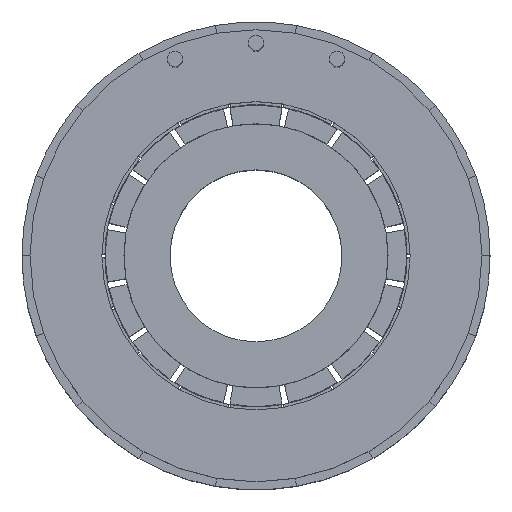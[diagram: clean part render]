
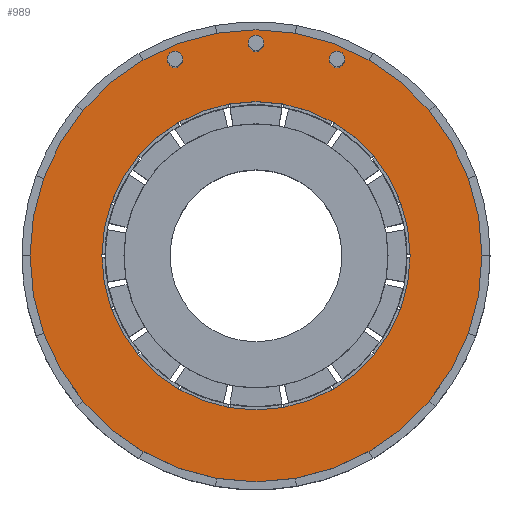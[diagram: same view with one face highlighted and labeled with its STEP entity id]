
A CAD part, top view. The second image highlights one B-rep face of the part: STEP entity #989.
In plain terms, the highlighted planar face has unit normal (0, 0, 1).
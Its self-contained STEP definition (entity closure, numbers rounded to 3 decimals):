
#19 = CARTESIAN_POINT ( 'NONE',  ( -11.948, 31.874, 40.9 ) ) ;
#24 = FACE_BOUND ( 'NONE', #2512, .T. ) ;
#64 = CARTESIAN_POINT ( 'NONE',  ( 13.203, 31.874, 40.9 ) ) ;
#83 = FACE_BOUND ( 'NONE', #1344, .T. ) ;
#109 = VERTEX_POINT ( 'NONE', #1306 ) ;
#110 = CARTESIAN_POINT ( 'NONE',  ( 0., 0., 40.9 ) ) ;
#163 = EDGE_LOOP ( 'NONE', ( #1943, #1238 ) ) ;
#168 = ORIENTED_EDGE ( 'NONE', *, *, #913, .F. ) ;
#184 = DIRECTION ( 'NONE',  ( 0., 0., 1. ) ) ;
#209 = VERTEX_POINT ( 'NONE', #2254 ) ;
#218 = CIRCLE ( 'NONE', #857, 36.8 ) ;
#263 = CIRCLE ( 'NONE', #477, 1.255 ) ;
#269 = DIRECTION ( 'NONE',  ( 0., 0., 1. ) ) ;
#279 = DIRECTION ( 'NONE',  ( 1., 0., 0. ) ) ;
#331 = CARTESIAN_POINT ( 'NONE',  ( -13.203, 31.874, 40.9 ) ) ;
#421 = AXIS2_PLACEMENT_3D ( 'NONE', #917, #1189, #3169 ) ;
#448 = EDGE_CURVE ( 'NONE', #1109, #1535, #1636, .T. ) ;
#477 = AXIS2_PLACEMENT_3D ( 'NONE', #64, #792, #1799 ) ;
#494 = EDGE_LOOP ( 'NONE', ( #2125, #2614 ) ) ;
#505 = EDGE_CURVE ( 'NONE', #3063, #1773, #2687, .T. ) ;
#567 = CARTESIAN_POINT ( 'NONE',  ( 1.255, 34.5, 40.9 ) ) ;
#627 = CIRCLE ( 'NONE', #2267, 36.8 ) ;
#640 = EDGE_CURVE ( 'NONE', #2920, #209, #1110, .T. ) ;
#643 = DIRECTION ( 'NONE',  ( 1., 0., 0. ) ) ;
#715 = CARTESIAN_POINT ( 'NONE',  ( 0., 0., 40.9 ) ) ;
#792 = DIRECTION ( 'NONE',  ( 0., 0., 1. ) ) ;
#842 = DIRECTION ( 'NONE',  ( 1., 0., 0. ) ) ;
#852 = CIRCLE ( 'NONE', #1260, 1.255 ) ;
#857 = AXIS2_PLACEMENT_3D ( 'NONE', #2921, #1380, #2652 ) ;
#858 = CIRCLE ( 'NONE', #2364, 1.255 ) ;
#866 = FACE_BOUND ( 'NONE', #1953, .T. ) ;
#879 = DIRECTION ( 'NONE',  ( 1., 0., 0. ) ) ;
#893 = CARTESIAN_POINT ( 'NONE',  ( 11.948, 31.874, 40.9 ) ) ;
#913 = EDGE_CURVE ( 'NONE', #1773, #3063, #858, .T. ) ;
#917 = CARTESIAN_POINT ( 'NONE',  ( 0., 0., 40.9 ) ) ;
#989 = ADVANCED_FACE ( 'NONE', ( #24, #2040, #83, #2097, #866 ), #1378, .T. ) ;
#1059 = AXIS2_PLACEMENT_3D ( 'NONE', #2172, #2219, #2711 ) ;
#1102 = ORIENTED_EDGE ( 'NONE', *, *, #505, .F. ) ;
#1109 = VERTEX_POINT ( 'NONE', #1870 ) ;
#1110 = CIRCLE ( 'NONE', #1747, 25.1 ) ;
#1119 = ORIENTED_EDGE ( 'NONE', *, *, #1753, .F. ) ;
#1120 = DIRECTION ( 'NONE',  ( 0., 0., 1. ) ) ;
#1145 = ORIENTED_EDGE ( 'NONE', *, *, #448, .F. ) ;
#1189 = DIRECTION ( 'NONE',  ( 0., 0., 1. ) ) ;
#1238 = ORIENTED_EDGE ( 'NONE', *, *, #1713, .T. ) ;
#1260 = AXIS2_PLACEMENT_3D ( 'NONE', #2801, #1540, #279 ) ;
#1306 = CARTESIAN_POINT ( 'NONE',  ( -36.8, 0., 40.9 ) ) ;
#1344 = EDGE_LOOP ( 'NONE', ( #1145, #1119 ) ) ;
#1369 = CIRCLE ( 'NONE', #2782, 25.1 ) ;
#1378 = PLANE ( 'NONE',  #421 ) ;
#1380 = DIRECTION ( 'NONE',  ( 0., 0., 1. ) ) ;
#1413 = CARTESIAN_POINT ( 'NONE',  ( -25.1, 0., 40.9 ) ) ;
#1444 = CARTESIAN_POINT ( 'NONE',  ( 14.458, 31.874, 40.9 ) ) ;
#1472 = DIRECTION ( 'NONE',  ( 0., 0., 1. ) ) ;
#1524 = DIRECTION ( 'NONE',  ( 1., 0., 0. ) ) ;
#1535 = VERTEX_POINT ( 'NONE', #567 ) ;
#1540 = DIRECTION ( 'NONE',  ( 0., 0., 1. ) ) ;
#1578 = CIRCLE ( 'NONE', #2576, 1.255 ) ;
#1636 = CIRCLE ( 'NONE', #3208, 1.255 ) ;
#1713 = EDGE_CURVE ( 'NONE', #3080, #109, #627, .T. ) ;
#1747 = AXIS2_PLACEMENT_3D ( 'NONE', #715, #1472, #2440 ) ;
#1753 = EDGE_CURVE ( 'NONE', #1535, #1109, #852, .T. ) ;
#1773 = VERTEX_POINT ( 'NONE', #19 ) ;
#1782 = ORIENTED_EDGE ( 'NONE', *, *, #640, .F. ) ;
#1799 = DIRECTION ( 'NONE',  ( 1., 0., 0. ) ) ;
#1812 = EDGE_CURVE ( 'NONE', #1894, #2113, #263, .T. ) ;
#1870 = CARTESIAN_POINT ( 'NONE',  ( -1.255, 34.5, 40.9 ) ) ;
#1894 = VERTEX_POINT ( 'NONE', #893 ) ;
#1943 = ORIENTED_EDGE ( 'NONE', *, *, #2971, .T. ) ;
#1953 = EDGE_LOOP ( 'NONE', ( #1782, #2865 ) ) ;
#2040 = FACE_BOUND ( 'NONE', #494, .T. ) ;
#2055 = EDGE_CURVE ( 'NONE', #209, #2920, #1369, .T. ) ;
#2097 = FACE_OUTER_BOUND ( 'NONE', #163, .T. ) ;
#2113 = VERTEX_POINT ( 'NONE', #1444 ) ;
#2121 = CARTESIAN_POINT ( 'NONE',  ( 0., 34.5, 40.9 ) ) ;
#2125 = ORIENTED_EDGE ( 'NONE', *, *, #1812, .F. ) ;
#2172 = CARTESIAN_POINT ( 'NONE',  ( -13.203, 31.874, 40.9 ) ) ;
#2219 = DIRECTION ( 'NONE',  ( 0., 0., 1. ) ) ;
#2246 = CARTESIAN_POINT ( 'NONE',  ( -14.458, 31.874, 40.9 ) ) ;
#2254 = CARTESIAN_POINT ( 'NONE',  ( 25.1, 0., 40.9 ) ) ;
#2267 = AXIS2_PLACEMENT_3D ( 'NONE', #2789, #3081, #1524 ) ;
#2364 = AXIS2_PLACEMENT_3D ( 'NONE', #331, #269, #842 ) ;
#2440 = DIRECTION ( 'NONE',  ( 1., 0., 0. ) ) ;
#2512 = EDGE_LOOP ( 'NONE', ( #1102, #168 ) ) ;
#2520 = CARTESIAN_POINT ( 'NONE',  ( 36.8, 0., 40.9 ) ) ;
#2576 = AXIS2_PLACEMENT_3D ( 'NONE', #3135, #184, #643 ) ;
#2614 = ORIENTED_EDGE ( 'NONE', *, *, #2866, .F. ) ;
#2652 = DIRECTION ( 'NONE',  ( 1., 0., 0. ) ) ;
#2687 = CIRCLE ( 'NONE', #1059, 1.255 ) ;
#2711 = DIRECTION ( 'NONE',  ( 1., 0., 0. ) ) ;
#2782 = AXIS2_PLACEMENT_3D ( 'NONE', #110, #1120, #879 ) ;
#2789 = CARTESIAN_POINT ( 'NONE',  ( 0., 0., 40.9 ) ) ;
#2801 = CARTESIAN_POINT ( 'NONE',  ( 0., 34.5, 40.9 ) ) ;
#2865 = ORIENTED_EDGE ( 'NONE', *, *, #2055, .F. ) ;
#2866 = EDGE_CURVE ( 'NONE', #2113, #1894, #1578, .T. ) ;
#2920 = VERTEX_POINT ( 'NONE', #1413 ) ;
#2921 = CARTESIAN_POINT ( 'NONE',  ( 0., 0., 40.9 ) ) ;
#2971 = EDGE_CURVE ( 'NONE', #109, #3080, #218, .T. ) ;
#3063 = VERTEX_POINT ( 'NONE', #2246 ) ;
#3080 = VERTEX_POINT ( 'NONE', #2520 ) ;
#3081 = DIRECTION ( 'NONE',  ( 0., 0., 1. ) ) ;
#3110 = DIRECTION ( 'NONE',  ( 0., 0., 1. ) ) ;
#3135 = CARTESIAN_POINT ( 'NONE',  ( 13.203, 31.874, 40.9 ) ) ;
#3162 = DIRECTION ( 'NONE',  ( 1., 0., 0. ) ) ;
#3169 = DIRECTION ( 'NONE',  ( 1., 0., 0. ) ) ;
#3208 = AXIS2_PLACEMENT_3D ( 'NONE', #2121, #3110, #3162 ) ;
